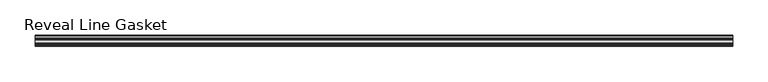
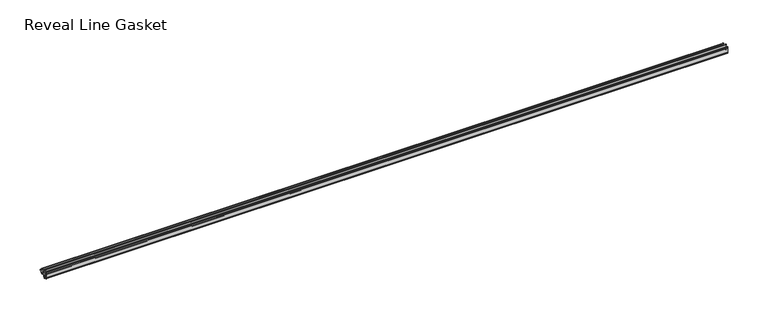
"""IFC4 building model written with IfcOpenShell, lengths in millimetres: proxy geometry, Accessories-Teknion-FHGR-AI_Healthcare-Reveal_Line_Gasket(Horizontal)-R2022 : Reveal Line Gasket."""

from ifc_helpers import new_model, si_unit, point, frame, frame_2d, origin, place, context, project, spatial, polyline, circle_curve, trimmed, segment, composite_curve, outline, extrude, source, transform, mapped, element, save


def reveal_line_gasket_35acc39e(model_context):
    return source(origin(), model_context, "Body", "SweptSolid", [
        extrude(outline(composite_curve([segment(polyline([(-7.6326998, 1603.2), (-7.4091917, 1604.1554927), (-6.8813059, 1605.0884684)]), True, "CONTINUOUS"), segment(trimmed(circle_curve(frame_2d((-6.5243141, 1604.8864793)), 0.4101739), [point((-6.8813059, 1605.0884684))], [point((-6.1246704, 1604.7941347))], False, "CARTESIAN"), True, "CONTINUOUS"), segment(polyline([(-6.1246704, 1604.7941347), (-6.3626997, 1603.0979086), (-6.3626997, 1601.0654527)]), True, "CONTINUOUS"), segment(trimmed(circle_curve(frame_2d((-5.6959605, 1601.4819258)), 0.786124), [point((-6.3626997, 1601.0654527))], [point((-5.0926996, 1600.977875))], True, "CARTESIAN"), True, "CONTINUOUS"), segment(polyline([(-5.0926996, 1600.977875), (-0.7492996, 1600.977875), (-3.7293824, 1606.1395295)]), True, "CONTINUOUS"), segment(trimmed(circle_curve(frame_2d((-3.3132479, 1606.2049761)), 0.4212495), [point((-3.7293824, 1606.1395295))], [point((-3.0485022, 1606.5326358))], False, "CARTESIAN"), True, "CONTINUOUS"), segment(polyline([(-3.0485022, 1606.5326358), (0.5742594, 1600.977875), (4.8262978, 1600.977875), (3.1660374, 1603.8535297)]), True, "CONTINUOUS"), segment(trimmed(circle_curve(frame_2d((3.5978728, 1603.9118855)), 0.4357605), [point((3.1660374, 1603.8535297))], [point((3.864328, 1604.2566881))], False, "CARTESIAN"), True, "CONTINUOUS"), segment(polyline([(3.864328, 1604.2566881), (6.1944059, 1600.977875), (7.6326998, 1600.977875), (7.6326998, 1599.422125), (6.1944059, 1599.422125), (3.864328, 1596.1433119)]), True, "CONTINUOUS"), segment(trimmed(circle_curve(frame_2d((3.5978728, 1596.4881145)), 0.4357605), [point((3.864328, 1596.1433119))], [point((3.1660374, 1596.5464703))], False, "CARTESIAN"), True, "CONTINUOUS"), segment(polyline([(3.1660374, 1596.5464703), (4.8262978, 1599.422125), (0.5742594, 1599.422125), (-3.0485022, 1593.8673642)]), True, "CONTINUOUS"), segment(trimmed(circle_curve(frame_2d((-3.3132479, 1594.1950239)), 0.4212495), [point((-3.0485022, 1593.8673642))], [point((-3.7293824, 1594.2604705))], False, "CARTESIAN"), True, "CONTINUOUS"), segment(polyline([(-3.7293824, 1594.2604705), (-0.7492996, 1599.422125), (-5.0926996, 1599.422125)]), True, "CONTINUOUS"), segment(trimmed(circle_curve(frame_2d((-5.6959605, 1598.9180742)), 0.786124), [point((-5.0926996, 1599.422125))], [point((-6.3626997, 1599.3345473))], True, "CARTESIAN"), True, "CONTINUOUS"), segment(polyline([(-6.3626997, 1599.3345473), (-6.3626997, 1597.3020914), (-6.1246704, 1595.6058653)]), True, "CONTINUOUS"), segment(trimmed(circle_curve(frame_2d((-6.5243141, 1595.5135207)), 0.4101739), [point((-6.1246704, 1595.6058653))], [point((-6.8813059, 1595.3115316))], False, "CARTESIAN"), True, "CONTINUOUS"), segment(polyline([(-6.8813059, 1595.3115316), (-7.4091917, 1596.2445073), (-7.6326998, 1597.2), (-7.6326998, 1603.2)]), True, "CONTINUOUS")], self_intersect=False)), frame((-491.5173792, 0.0, 0.0), z_axis=(1.0, 0.0, 0.0), x_axis=(0.0, 1.0, 0.0)), (0.0, 0.0, 1.0), 983.0347583),
    ])


if __name__ == "__main__":
    model = new_model("IFC4")
    model_context = context("Model", 3, world=origin())
    ifc_project = project(units=[si_unit("LENGTHUNIT", "METRE", prefix="MILLI")], contexts=[model_context])
    site = spatial("IfcSite", under=ifc_project)
    building = spatial("IfcBuilding", under=site)
    placement = place(None, origin())
    reveal_line_gasket_shape = reveal_line_gasket_35acc39e(model_context)
    element("IfcBuildingElementProxy", 1, Name="Accessories-Teknion-FHGR-AI_Healthcare-Reveal_Line_Gasket(Horizontal)-R2022 : Reveal Line Gasket", ObjectType="Accessories-Teknion-FHGR-AI_Healthcare-Reveal_Line_Gasket(Horizontal)-R2022 : Reveal Line Gasket", at=placement, inside=building, context=model_context, shape_type="MappedRepresentation", body=[
        mapped(reveal_line_gasket_shape, transform((0.0, 0.0, 0.0), x_axis=(1.0, 0.0, 0.0), y_axis=(0.0, 1.0, 0.0), z_axis=(0.0, 0.0, 1.0))),
    ])
    save(model, "model.ifc")
